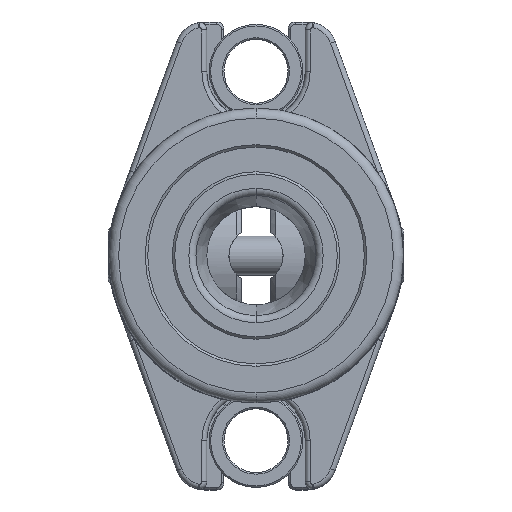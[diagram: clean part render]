
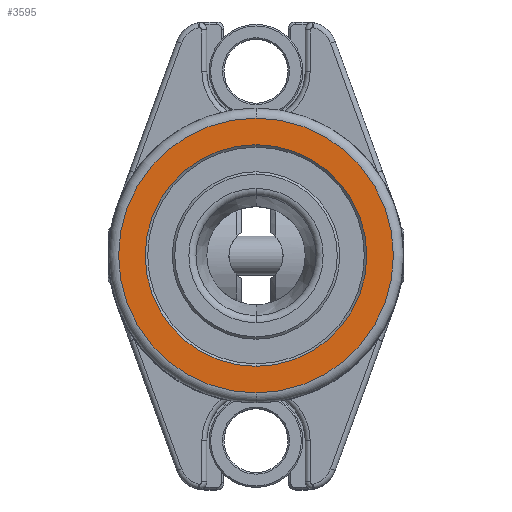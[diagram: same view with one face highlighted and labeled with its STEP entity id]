
A CAD part, top view. The second image highlights one B-rep face of the part: STEP entity #3595.
In plain terms, the highlighted planar face has unit normal (0, 0, 1).
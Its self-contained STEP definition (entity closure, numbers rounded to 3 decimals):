
#783 = AXIS2_PLACEMENT_3D ( 'NONE', #9121, #11389, #7059 ) ;
#1211 = CARTESIAN_POINT ( 'NONE',  ( 0., -22.5, 63. ) ) ;
#1754 = DIRECTION ( 'NONE',  ( 0., 1., 0. ) ) ;
#2398 = EDGE_CURVE ( 'NONE', #12210, #11363, #5060, .T. ) ;
#2736 = CARTESIAN_POINT ( 'NONE',  ( 0., 0., 63. ) ) ;
#2777 = CIRCLE ( 'NONE', #13624, 22.5 ) ;
#2946 = PLANE ( 'NONE',  #8436 ) ;
#2948 = EDGE_CURVE ( 'NONE', #6591, #9735, #2777, .T. ) ;
#3145 = FACE_BOUND ( 'NONE', #12807, .T. ) ;
#3595 = ADVANCED_FACE ( 'NONE', ( #7388, #3145 ), #2946, .T. ) ;
#4474 = CIRCLE ( 'NONE', #8317, 27.9 ) ;
#5060 = CIRCLE ( 'NONE', #783, 27.9 ) ;
#5135 = CARTESIAN_POINT ( 'NONE',  ( 10., 0., 63. ) ) ;
#5268 = DIRECTION ( 'NONE',  ( 0., -1., 0. ) ) ;
#5403 = DIRECTION ( 'NONE',  ( 0., 0., 1. ) ) ;
#5826 = ORIENTED_EDGE ( 'NONE', *, *, #2948, .T. ) ;
#6420 = CARTESIAN_POINT ( 'NONE',  ( 0., 22.5, 63. ) ) ;
#6591 = VERTEX_POINT ( 'NONE', #1211 ) ;
#7059 = DIRECTION ( 'NONE',  ( 0., -1., 0. ) ) ;
#7388 = FACE_OUTER_BOUND ( 'NONE', #12354, .T. ) ;
#7640 = DIRECTION ( 'NONE',  ( 0., 0., -1. ) ) ;
#7819 = ORIENTED_EDGE ( 'NONE', *, *, #13854, .T. ) ;
#8156 = ORIENTED_EDGE ( 'NONE', *, *, #2398, .T. ) ;
#8317 = AXIS2_PLACEMENT_3D ( 'NONE', #9046, #9260, #13361 ) ;
#8436 = AXIS2_PLACEMENT_3D ( 'NONE', #5135, #5403, #5268 ) ;
#8548 = EDGE_CURVE ( 'NONE', #11363, #12210, #4474, .T. ) ;
#8708 = CARTESIAN_POINT ( 'NONE',  ( 0., 0., 63. ) ) ;
#8948 = ORIENTED_EDGE ( 'NONE', *, *, #8548, .T. ) ;
#9046 = CARTESIAN_POINT ( 'NONE',  ( 0., 0., 63. ) ) ;
#9121 = CARTESIAN_POINT ( 'NONE',  ( 0., 0., 63. ) ) ;
#9260 = DIRECTION ( 'NONE',  ( 0., 0., 1. ) ) ;
#9735 = VERTEX_POINT ( 'NONE', #6420 ) ;
#10098 = CARTESIAN_POINT ( 'NONE',  ( 0., -27.9, 63. ) ) ;
#10137 = DIRECTION ( 'NONE',  ( 0., 1., 0. ) ) ;
#10316 = DIRECTION ( 'NONE',  ( 0., 0., -1. ) ) ;
#10429 = CIRCLE ( 'NONE', #13352, 22.5 ) ;
#10902 = CARTESIAN_POINT ( 'NONE',  ( 0., 27.9, 63. ) ) ;
#11363 = VERTEX_POINT ( 'NONE', #10098 ) ;
#11389 = DIRECTION ( 'NONE',  ( 0., 0., 1. ) ) ;
#12210 = VERTEX_POINT ( 'NONE', #10902 ) ;
#12354 = EDGE_LOOP ( 'NONE', ( #8948, #8156 ) ) ;
#12807 = EDGE_LOOP ( 'NONE', ( #5826, #7819 ) ) ;
#13352 = AXIS2_PLACEMENT_3D ( 'NONE', #8708, #7640, #10137 ) ;
#13361 = DIRECTION ( 'NONE',  ( 0., -1., 0. ) ) ;
#13624 = AXIS2_PLACEMENT_3D ( 'NONE', #2736, #10316, #1754 ) ;
#13854 = EDGE_CURVE ( 'NONE', #9735, #6591, #10429, .T. ) ;
